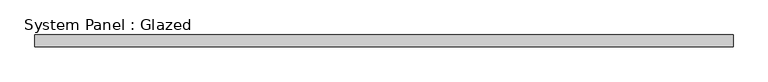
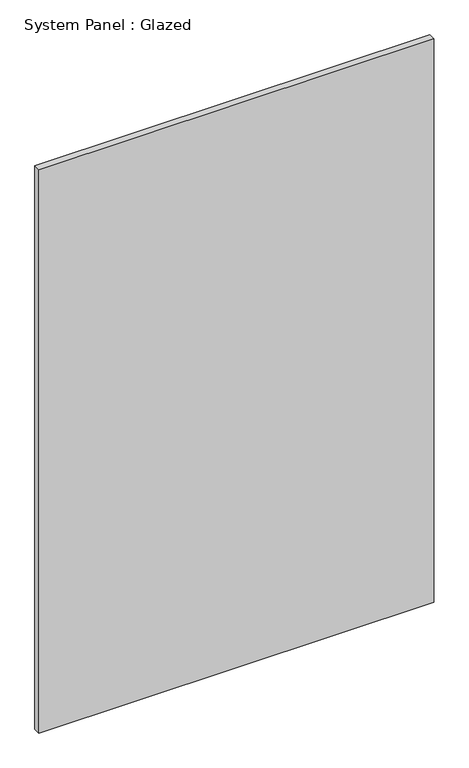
"""IFC4 building model written with IfcOpenShell, lengths in millimetres: plate geometry, System Panel : Glazed."""

from ifc_helpers import new_model, si_unit, origin, origin_with_axes, place, context, project, spatial, polyline, outline, extrude, source, transform, mapped, element, save


def system_panel_glazed_bdd28e3d(model_context):
    return source(origin(), model_context, "Body", "SweptSolid", [
        extrude(outline(polyline([(747.9681587, -12.7), (-747.9681587, -12.7), (-747.9681587, 12.7), (747.9681587, 12.7), (747.9681587, -12.7)])), origin_with_axes(), (0.0, 0.0, 1.0), 2255.8510357),
    ])


if __name__ == "__main__":
    model = new_model("IFC4")
    model_context = context("Model", 3, world=origin())
    ifc_project = project(units=[si_unit("LENGTHUNIT", "METRE", prefix="MILLI")], contexts=[model_context])
    site = spatial("IfcSite", under=ifc_project)
    building = spatial("IfcBuilding", under=site)
    placement = place(None, origin())
    system_panel_glazed_shape = system_panel_glazed_bdd28e3d(model_context)
    element("IfcPlate", 1, ObjectType="System Panel : Glazed", at=placement, inside=building, context=model_context, shape_type="MappedRepresentation", body=[
        mapped(system_panel_glazed_shape, transform((0.0, 0.0, 0.0), x_axis=(1.0, 0.0, 0.0), y_axis=(0.0, 1.0, 0.0), z_axis=(0.0, 0.0, 1.0))),
    ])
    save(model, "model.ifc")
